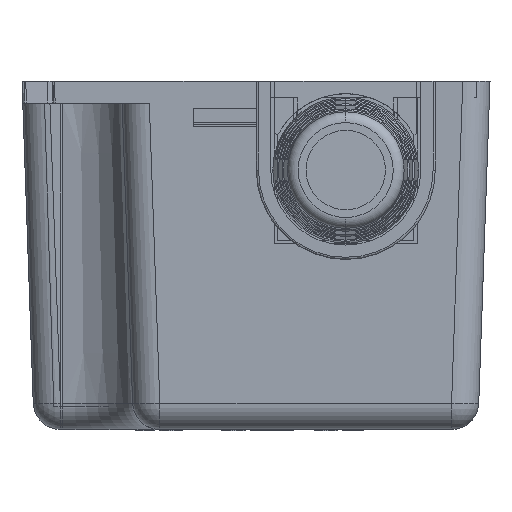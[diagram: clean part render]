
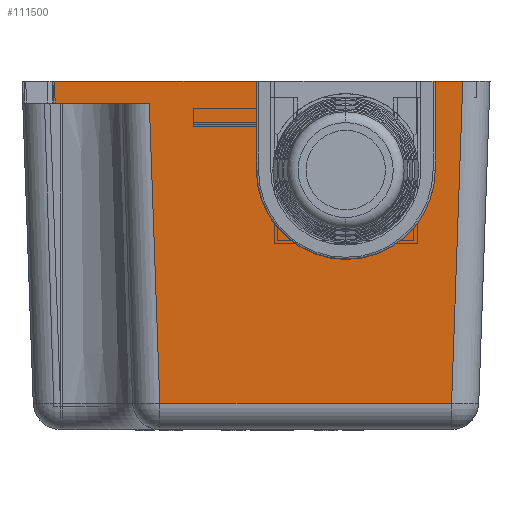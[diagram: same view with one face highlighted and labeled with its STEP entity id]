
A CAD part, left-side view. The second image highlights one B-rep face of the part: STEP entity #111500.
In plain terms, the highlighted planar face has unit normal (-0.999, 0, -0.035) as drawn and (-0.999, 0, 0.035) by its records, which use the part's own axes.
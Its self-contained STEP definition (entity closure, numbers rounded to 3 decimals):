
#110330=CARTESIAN_POINT('',(-79.965,8.165,
8.15));
#110340=VERTEX_POINT('',#110330);
#110370=CARTESIAN_POINT('',(-79.965,-0.052,
8.15));
#110380=DIRECTION('',(-0.999,0.,0.035));
#110390=DIRECTION('',(-0.035,0.,-0.999));
#110400=AXIS2_PLACEMENT_3D('',#110370,#110380,#110390);
#110410=CIRCLE('',#110400,8.223);
#110420=CARTESIAN_POINT('',(-79.965,-8.27,
8.15));
#110430=VERTEX_POINT('',#110420);
#110440=EDGE_CURVE('',#110430,#110340,#110410,.T.);
#110620=CARTESIAN_POINT('',(-80.25,-8.27,0.));
#110630=DIRECTION('',(0.035,0.,0.999));
#110640=VECTOR('',#110630,1.);
#110650=LINE('',#110620,#110640);
#110660=CARTESIAN_POINT('',(-80.25,-8.27,0.));
#110670=VERTEX_POINT('',#110660);
#110680=EDGE_CURVE('',#110670,#110430,#110650,.T.);
#110790=CARTESIAN_POINT('',(-80.25,-33.,0.));
#110800=DIRECTION('',(-0.999,0.,0.035));
#110810=DIRECTION('',(0.,-1.,0.));
#110820=AXIS2_PLACEMENT_3D('',#110790,#110800,#110810);
#110830=PLANE('',#110820);
#110840=CARTESIAN_POINT('',(-79.217,0.,29.577));
#110850=DIRECTION('',(0.,1.,0.));
#110860=VECTOR('',#110850,1.);
#110870=LINE('',#110840,#110860);
#110880=CARTESIAN_POINT('',(-79.217,-17.138,
29.577));
#110890=VERTEX_POINT('',#110880);
#110900=CARTESIAN_POINT('',(-79.217,9.669,
29.577));
#110910=VERTEX_POINT('',#110900);
#110920=EDGE_CURVE('',#110890,#110910,#110870,.T.);
#110930=ORIENTED_EDGE('',*,*,#110920,.T.);
#110940=CARTESIAN_POINT('',(-80.247,-18.168,
0.087));
#110950=DIRECTION('',(-0.035,-0.035,
-0.999));
#110960=VECTOR('',#110950,1.);
#110970=LINE('',#110940,#110960);
#110980=CARTESIAN_POINT('',(-80.181,-18.101,
1.99));
#110990=VERTEX_POINT('',#110980);
#111000=EDGE_CURVE('',#110890,#110990,#110970,.T.);
#111010=ORIENTED_EDGE('',*,*,#111000,.F.);
#111020=CARTESIAN_POINT('',(-80.181,0.,1.99));
#111030=DIRECTION('',(0.,1.,0.));
#111040=VECTOR('',#111030,1.);
#111050=LINE('',#111020,#111040);
#111060=CARTESIAN_POINT('',(-80.181,-26.753,
1.99));
#111070=VERTEX_POINT('',#111060);
#111080=EDGE_CURVE('',#111070,#110990,#111050,.T.);
#111090=ORIENTED_EDGE('',*,*,#111080,.T.);
#111100=CARTESIAN_POINT('',(-80.25,-26.82,
0.007));
#111110=DIRECTION('',(-0.035,-0.034,
-0.999));
#111120=VECTOR('',#111110,1.);
#111130=LINE('',#111100,#111120);
#111140=CARTESIAN_POINT('',(-80.25,-26.82,
0.));
#111150=VERTEX_POINT('',#111140);
#111160=EDGE_CURVE('',#111070,#111150,#111130,.T.);
#111170=ORIENTED_EDGE('',*,*,#111160,.F.);
#111180=CARTESIAN_POINT('',(-80.25,0.,0.));
#111190=DIRECTION('',(0.,-1.,0.));
#111200=VECTOR('',#111190,1.);
#111210=LINE('',#111180,#111200);
#111220=EDGE_CURVE('',#110670,#111150,#111210,.T.);
#111230=ORIENTED_EDGE('',*,*,#111220,.T.);
#111240=ORIENTED_EDGE('',*,*,#110680,.F.);
#111250=ORIENTED_EDGE('',*,*,#110440,.F.);
#111260=CARTESIAN_POINT('',(-80.25,8.165,0.));
#111270=DIRECTION('',(-0.035,0.,-0.999));
#111280=VECTOR('',#111270,1.);
#111290=LINE('',#111260,#111280);
#111300=CARTESIAN_POINT('',(-80.25,8.165,0.));
#111310=VERTEX_POINT('',#111300);
#111320=EDGE_CURVE('',#110340,#111310,#111290,.T.);
#111330=ORIENTED_EDGE('',*,*,#111320,.F.);
#111340=CARTESIAN_POINT('',(-80.25,0.4,0.));
#111350=DIRECTION('',(0.,-1.,0.));
#111360=VECTOR('',#111350,1.);
#111370=LINE('',#111340,#111360);
#111380=CARTESIAN_POINT('',(-80.25,10.701,0.)
);
#111390=VERTEX_POINT('',#111380);
#111400=EDGE_CURVE('',#111390,#111310,#111370,.T.);
#111410=ORIENTED_EDGE('',*,*,#111400,.T.);
#111420=CARTESIAN_POINT('',(-80.247,10.698,
0.087));
#111430=DIRECTION('',(-0.035,0.035,
-0.999));
#111440=VECTOR('',#111430,1.);
#111450=LINE('',#111420,#111440);
#111460=EDGE_CURVE('',#110910,#111390,#111450,.T.);
#111470=ORIENTED_EDGE('',*,*,#111460,.T.);
#111480=EDGE_LOOP('',(#111470,#111410,#111330,#111250,#111240,#111230,
#111170,#111090,#111010,#110930));
#111490=FACE_OUTER_BOUND('',#111480,.T.);
#111500=ADVANCED_FACE('',(#111490),#110830,.T.);
